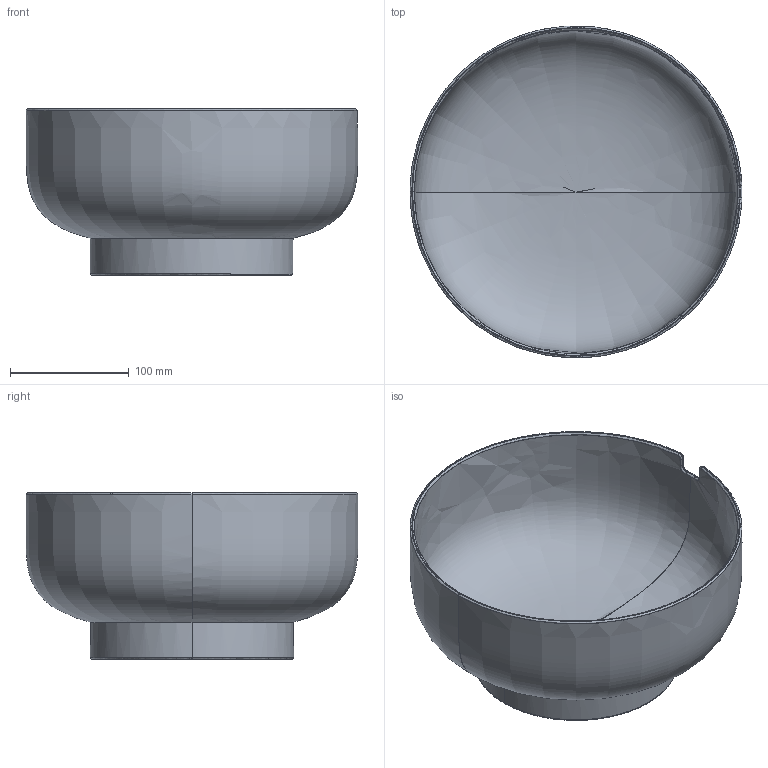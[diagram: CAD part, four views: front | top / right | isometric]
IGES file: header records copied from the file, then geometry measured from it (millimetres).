
Global section: file name: C:\Users\colombo_c\Desktop\Danese\Sito\3D mancanti\Matua\Matua.igs; native system: Rhinoceros ( Apr 16 2024 ); preprocessor: Trout Lake IGES 012 Apr 16 2024; date: 250711.073238; units: millimetre
Bounding box: 280 x 280 x 140 mm (x, y, z)
Surface area: 293348.6 mm2 (no closed solid volume)
Topology: 0 solids, 0 shells, 49 faces, 779 edges, 775 vertices
Faces by surface type: bspline 49
